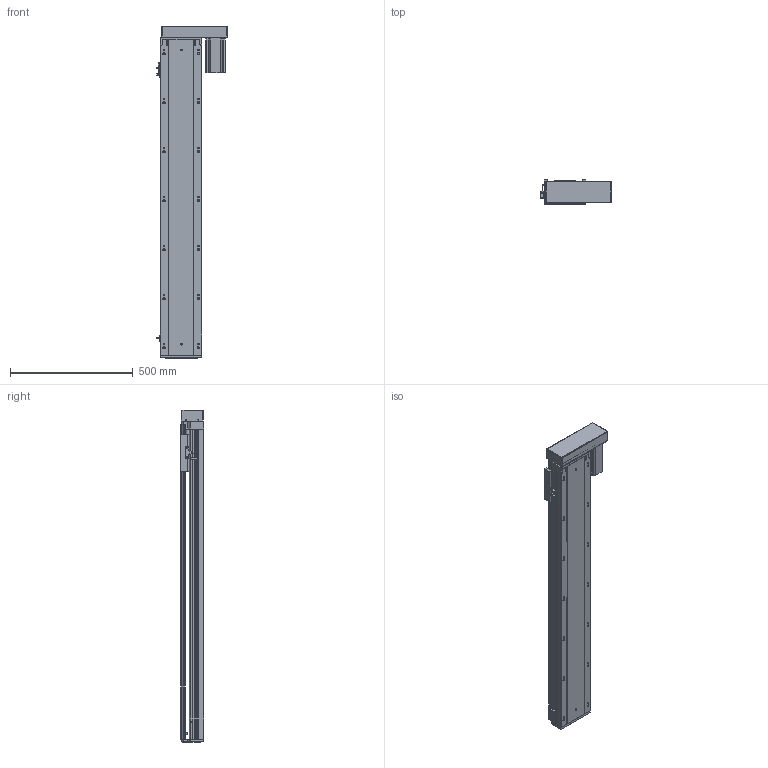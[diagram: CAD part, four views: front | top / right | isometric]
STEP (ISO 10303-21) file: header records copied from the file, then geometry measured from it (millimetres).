
FILE_DESCRIPTION (( 'STEP AP203' ), '1' );
FILE_NAME ('RY170-L2510-300-RK.SLDASM_1050.step', '2021-03-12T09:18:37', ( '盈信电脑' ), ( '东莞市道滘镇水果街19号' ), 'SwSTEP 2.0', 'SolidWorks 2012', '' );
FILE_SCHEMA (( 'CONFIG_CONTROL_DESIGN' ));
Products named in the file (14): RY170外置感应片(200共用）; RY170-L2510-300-RK.SLDASM_1050; 覜茼ん672; 怢湛750W萇儂ㄗ80遺ㄘ; RY170-酘衵殏750W萇儂傷; RY170酘衵殏萇儂欶750W; RY170-左右折电机安装板750W; 滅袉蝶18-20; RY170转折电机端支撑座(7004); RY170綴裔啣; 滅袉蝶18-10; 改造-RY170铝滑块25丝杆螺母; RY170-300倰第裔啣-RK_1050; RY170-300倰第菁釱-RK_1050
Assembly tree (15 placements, depth 3):
  RY170-L2510-300-RK.SLDASM_1050
    RY170-300倰第菁釱-RK_1050
    改造-RY170铝滑块25丝杆螺母
    RY170-300倰第裔啣-RK_1050
    RY170綴裔啣
    滅袉蝶18-20
    滅袉蝶18-10
    RY170转折电机端支撑座(7004)
    RY170-酘衵殏750W萇儂傷
      RY170-左右折电机安装板750W
      RY170酘衵殏萇儂欶750W
      怢湛750W萇儂ㄗ80遺ㄘ
    覜茼ん672  x3
    RY170外置感应片(200共用）
Bounding box: 286.2 x 97 x 1355 mm (x, y, z)
Volume: 7424220.7 mm3; surface area: 2325879.4 mm2
Topology: 14 solids, 14 shells, 2199 faces, 6278 edges, 4022 vertices
Faces by surface type: plane 1086, cylinder 904, cone 190, bspline 19
Entity records: 70675 total; most frequent: CARTESIAN_POINT 16753, ORIENTED_EDGE 11268, DIRECTION 10502, EDGE_CURVE 5634, VERTEX_POINT 3702, AXIS2_PLACEMENT_3D 3509, VECTOR 3484, LINE 3484
